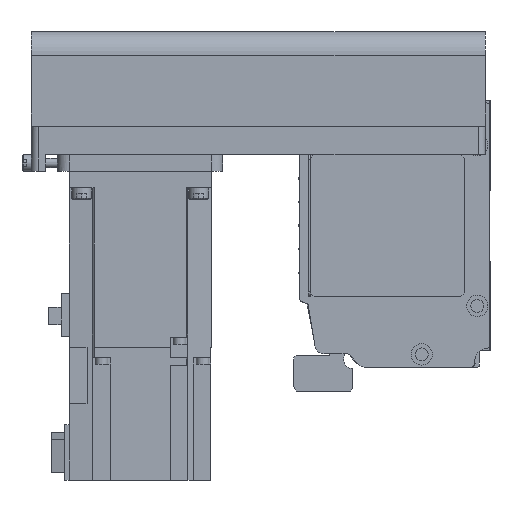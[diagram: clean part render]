
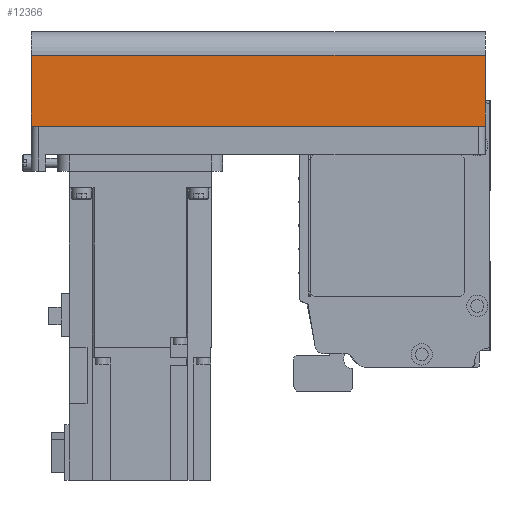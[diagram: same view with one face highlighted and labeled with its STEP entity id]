
A CAD part, left-side view. The second image highlights one B-rep face of the part: STEP entity #12366.
In plain terms, the highlighted planar face has unit normal (-1, 0, 0) as drawn and (0, 1, 0) by its records, which use the part's own axes.
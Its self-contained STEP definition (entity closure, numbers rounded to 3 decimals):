
#2213=ORIENTED_EDGE('',*,*,#5015,.F.);
#2214=ORIENTED_EDGE('',*,*,#5047,.F.);
#2215=ORIENTED_EDGE('',*,*,#5002,.T.);
#2216=ORIENTED_EDGE('',*,*,#4987,.T.);
#4987=EDGE_CURVE('',#6547,#6548,#7793,.T.);
#5002=EDGE_CURVE('',#6559,#6547,#7806,.T.);
#5015=EDGE_CURVE('',#6569,#6548,#7815,.T.);
#5047=EDGE_CURVE('',#6559,#6569,#7827,.T.);
#6547=VERTEX_POINT('',#19277);
#6548=VERTEX_POINT('',#19278);
#6559=VERTEX_POINT('',#19306);
#6569=VERTEX_POINT('',#19333);
#7793=LINE('',#19276,#9021);
#7806=LINE('',#19305,#9034);
#7815=LINE('',#19332,#9043);
#7827=LINE('',#19387,#9055);
#9021=VECTOR('',#15488,1000.);
#9034=VECTOR('',#15509,1000.);
#9043=VECTOR('',#15534,1000.);
#9055=VECTOR('',#15612,1000.);
#10110=EDGE_LOOP('',(#2213,#2214,#2215,#2216));
#11040=FACE_BOUND('',#10110,.T.);
#11803=PLANE('',#13331);
#12366=ADVANCED_FACE('',(#11040),#11803,.T.);
#13331=AXIS2_PLACEMENT_3D('',#19386,#15610,#15611);
#15488=DIRECTION('',(1.,0.,0.));
#15509=DIRECTION('',(0.,0.,1.));
#15534=DIRECTION('',(0.,0.,1.));
#15610=DIRECTION('',(0.,1.,0.));
#15611=DIRECTION('',(0.,0.,1.));
#15612=DIRECTION('',(1.,0.,0.));
#19276=CARTESIAN_POINT('',(-192.,40.,-12.1));
#19277=CARTESIAN_POINT('',(-192.,40.,-12.1));
#19278=CARTESIAN_POINT('',(0.,40.,-12.1));
#19305=CARTESIAN_POINT('',(-192.,40.,-42.));
#19306=CARTESIAN_POINT('',(-192.,40.,-42.));
#19332=CARTESIAN_POINT('',(0.,40.,-42.));
#19333=CARTESIAN_POINT('',(0.,40.,-42.));
#19386=CARTESIAN_POINT('',(-192.,40.,-42.));
#19387=CARTESIAN_POINT('',(-192.,40.,-42.));
